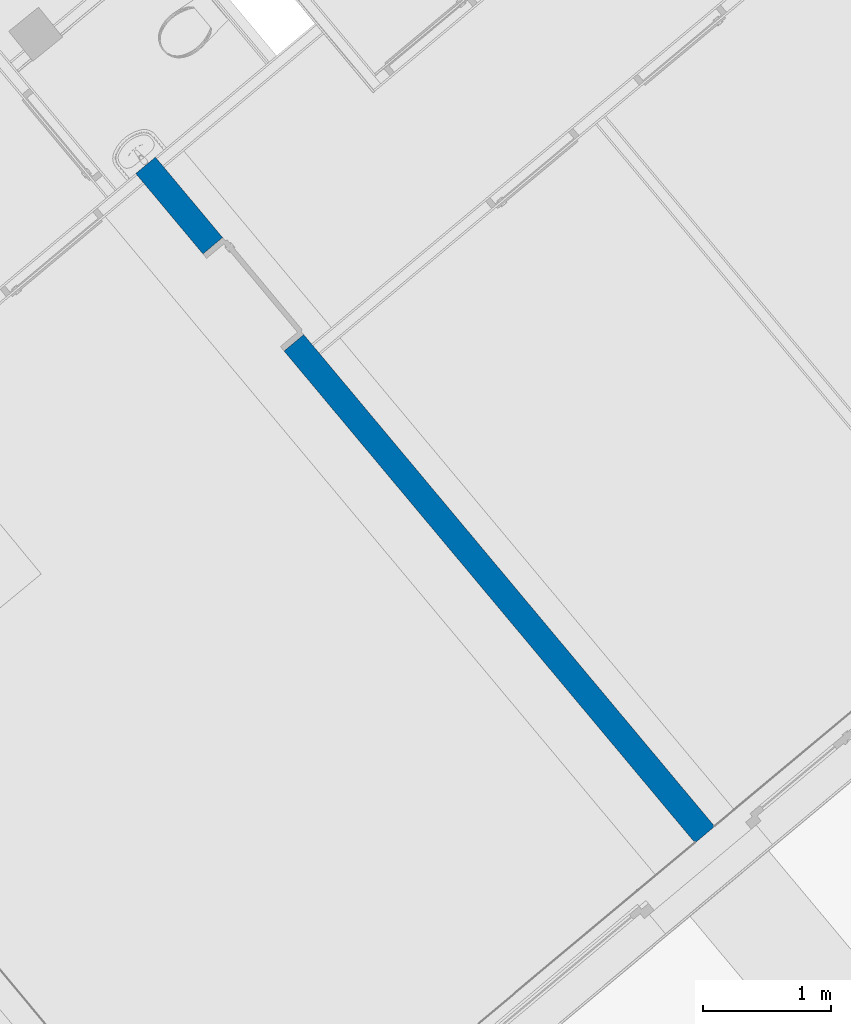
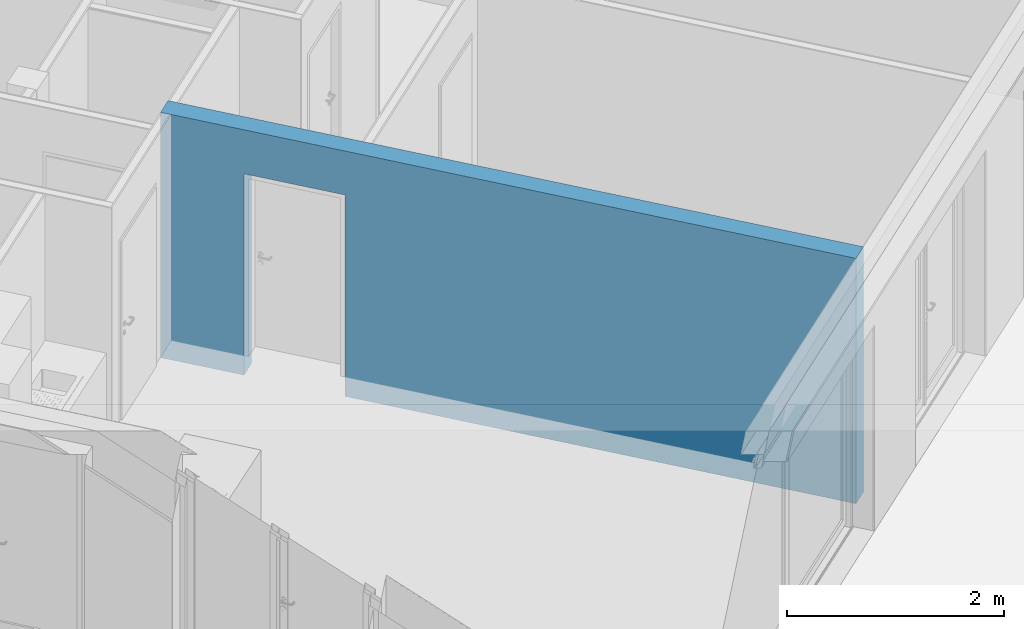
# One storey, part 2 of 67: 1 wall, 1 opening.
"""IFC4 building model written with IfcOpenShell, lengths in metres."""

from ifc_helpers import new_model, entity, si_unit, converted_unit, derived_unit, direction, frame, origin_with_axes, place, context, subcontext, project, spatial, polygons, material, type_object, element, save


model = new_model("IFC4")

# Units and contexts
model_context = context("Model", 3, precision=1e-05, world=origin_with_axes(), true_north=direction((0.0, 1.0)))
body_context = subcontext(model_context, "Body", "Model", "MODEL_VIEW")
ifc_project = project(units=[si_unit("LENGTHUNIT", "METRE"), si_unit("AREAUNIT", "SQUARE_METRE"), si_unit("VOLUMEUNIT", "CUBIC_METRE"), converted_unit("PLANEANGLEUNIT", "DEGREE", entity("IfcPlaneAngleMeasure", 0.0174532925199), si_unit("PLANEANGLEUNIT", "RADIAN"), dimensions=[0, 0, 0, 0, 0, 0, 0]), converted_unit("TIMEUNIT", "Year", entity("IfcTimeMeasure", 31556926.0), si_unit("TIMEUNIT", "SECOND"), dimensions=[0, 0, 1, 0, 0, 0, 0]), si_unit("MASSUNIT", "GRAM", prefix="KILO"), si_unit("THERMODYNAMICTEMPERATUREUNIT", "DEGREE_CELSIUS"), si_unit("LUMINOUSINTENSITYUNIT", "LUMEN"), si_unit("ENERGYUNIT", "JOULE", prefix="MEGA"), derived_unit("THERMALCONDUCTANCEUNIT", [(si_unit("POWERUNIT", "WATT"), 1), (si_unit("LENGTHUNIT", "METRE"), -1), (si_unit("THERMODYNAMICTEMPERATUREUNIT", "KELVIN"), -1)]), derived_unit("SPECIFICHEATCAPACITYUNIT", [(si_unit("ENERGYUNIT", "JOULE"), 1), (si_unit("MASSUNIT", "GRAM", prefix="KILO"), -1), (si_unit("THERMODYNAMICTEMPERATUREUNIT", "KELVIN"), -1)]), derived_unit("MASSDENSITYUNIT", [(si_unit("MASSUNIT", "GRAM", prefix="KILO"), 1), (si_unit("VOLUMEUNIT", "CUBIC_METRE"), -1)])], contexts=[model_context])

# Site, building, storey
site_placement = place(None, frame((-0.00153261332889, -0.00661245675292, 0.0), z_axis=(0.0, 0.0, 1.0), x_axis=(1.0, 0.0, 0.0)))
site = spatial("IfcSite", under=ifc_project, at=site_placement, Name="Site", CompositionType="ELEMENT")
building_placement = place(site_placement, origin_with_axes())
building = spatial("IfcBuilding", under=site, at=building_placement, Name="Building", CompositionType="ELEMENT")
storey_placement = place(building_placement, frame((0.0, 0.0, -0.22), z_axis=(0.0, 0.0, 1.0), x_axis=(1.0, 0.0, 0.0)))
storey = spatial("IfcBuildingStorey", under=building, at=storey_placement, Name="EG", CompositionType="ELEMENT", Elevation=-0.22)

# Wall, opening
ifc_material = material(Name="Stahlbeton Wand")
wall_type = type_object("IfcWallType", Name="Stahlbeton Wand 200", PredefinedType="NOTDEFINED")
wall_placement = place(storey_placement, frame((3.94303822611, 12.3679977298, 0.0), z_axis=(0.0, 0.0, 1.0), x_axis=(-0.641209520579, 0.767365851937, 0.0)))
wall = element("IfcWall", 1, at=wall_placement, inside=storey, type_object=wall_type, material=ifc_material, Name="Wand-003", PredefinedType="NOTDEFINED", context=body_context, shape_type="Tessellation", body=[
    polygons([(6.41913889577, 0.0, 2.265), (6.41913889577, -6.53536957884e-08, 0.22), (6.41913889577, -6.53536940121e-08, 0.0), (7.23878509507, 0.0, 0.0), (7.23878509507, 0.0, 2.76), (0.415000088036, 0.0, 2.76), (0.415000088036, 0.0, 0.0), (5.42913891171, 4.04373086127e-08, 0.0), (5.42913889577, 4.04373086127e-08, 0.22), (5.42913889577, 0.0, 2.265), (6.41913889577, 0.2, 2.265), (6.41913889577, 0.2, 0.22), (6.41913889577, 0.2, 0.0), (7.23878509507, 0.2, 0.0), (7.23878509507, 0.2, 2.76), (0.414869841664, 0.2, 2.76), (0.414869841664, 0.2, 0.0), (5.42913891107, 0.2, 0.0), (5.42913889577, 0.2, 0.22), (5.42913889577, 0.2, 2.265)], [[[1, 2, 3, 4, 5, 6, 7, 8, 9, 10]], [[2, 1, 11, 12]], [[2, 12, 13, 3]], [[3, 13, 14, 4]], [[4, 14, 15, 5]], [[5, 15, 16, 6]], [[16, 17, 7, 6]], [[18, 8, 7, 17]], [[19, 9, 8, 18]], [[10, 9, 19, 20]], [[1, 10, 20, 11]], [[20, 19, 18, 17, 16, 15, 14, 13, 12, 11]]], closed=True),
])
opening_placement = place(wall_placement, frame((5.92413889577, 0.0, 0.22), z_axis=(0.0, 0.0, 1.0), x_axis=(1.0, 0.0, 0.0)))
element("IfcOpeningElement", 2, at=opening_placement, cuts=wall, Name="Tür-017", context=body_context, identifier="Reference", shape_type="Tessellation", body=[
    polygons([(0.495, 3.7627883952, 2.045), (0.495, 3.7627883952, -0.22), (-0.495, 3.7627883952, -0.22), (-0.495, 3.7627883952, 2.045), (0.495, -3.5627883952, 2.045), (0.495, -3.5627883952, -0.22), (-0.495, -3.5627883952, -0.22), (-0.495, -3.5627883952, 2.045)], [[[1, 2, 3, 4]], [[5, 6, 2, 1]], [[6, 7, 3, 2]], [[7, 8, 4, 3]], [[8, 5, 1, 4]], [[7, 6, 5, 8]]], closed=True),
])

save(model, "model.ifc")
